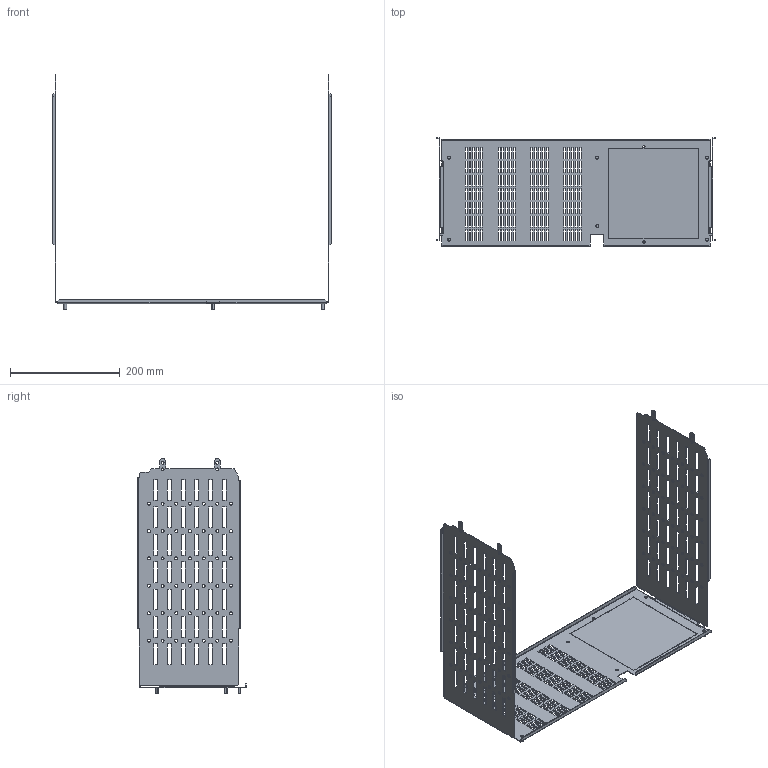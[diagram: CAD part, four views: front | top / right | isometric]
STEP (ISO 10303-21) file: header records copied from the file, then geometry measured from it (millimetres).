
FILE_DESCRIPTION(('CAx-IF Rec.Pracs.---Model Styling and Organization---1.2---2011-12-15','CAx-IF Rec.Pracs.---Geometric and Assembly Validation Properties---4.1---2014-06-16','CAx-IF Rec.Pracs.---PMI Polyline Presentation---2.0---2013-05-24'),'2;1');
FILE_NAME('R5M2WPV4M.stp','2021-05-05T13:01:55+03:00',(''),(''),'STEP Interface 4.4 by CT CoreTechnologie','3D_Evolution4.4 by CT CoreTechnologie','');
FILE_SCHEMA(('AUTOMOTIVE_DESIGN { 1 0 10303 214 1 1 1 1 }'));
Length unit declared in the file: millimetre
Products named in the file (5): R5M2WPV4M; RB.1285.00.00.0_-08; RB.1285.00.00.0_-09; M5x8-DIN7500C_stright; RB.1600.00.00.0_-02
Assembly tree (9 placements, depth 2):
  R5M2WPV4M
    RB.1285.00.00.0_-08
    RB.1285.00.00.0_-09
    M5x8-DIN7500C_stright  x6
    RB.1600.00.00.0_-02
Bounding box: 510 x 197.5 x 429.1 mm (x, y, z)
Surface area: 468740.7 mm2 (no closed solid volume)
Topology: 0 solids, 9 shells, 1364 faces, 4062 edges, 2708 vertices
Faces by surface type: plane 1110, cylinder 254
Entity records: 46528 total; most frequent: CARTESIAN_POINT 8074, ORIENTED_EDGE 8064, DIRECTION 7228, EDGE_CURVE 4032, VECTOR 3544, LINE 3544, VERTEX_POINT 2688, EDGE_LOOP 2024
